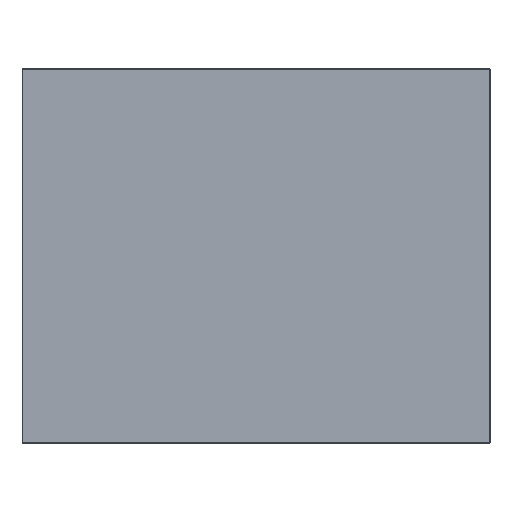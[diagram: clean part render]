
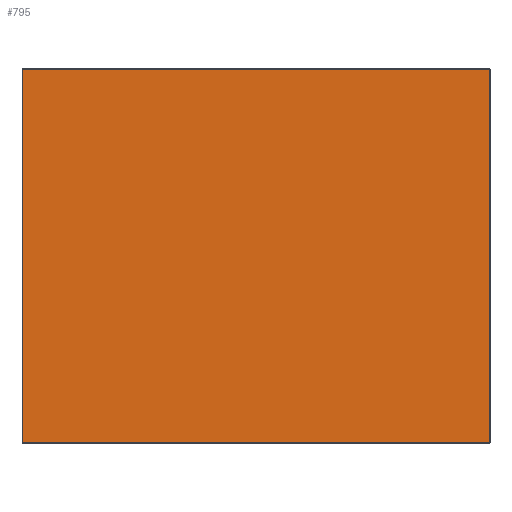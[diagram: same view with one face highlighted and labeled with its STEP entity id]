
A CAD part, top view. The second image highlights one B-rep face of the part: STEP entity #795.
In plain terms, the highlighted planar face has unit normal (0, 0, 1).
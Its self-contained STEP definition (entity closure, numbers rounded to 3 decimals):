
#52 = VERTEX_POINT ( 'NONE', #383 ) ;
#72 = VERTEX_POINT ( 'NONE', #1395 ) ;
#84 = VECTOR ( 'NONE', #1172, 1000. ) ;
#119 = LINE ( 'NONE', #300, #1384 ) ;
#164 = CARTESIAN_POINT ( 'NONE',  ( -499.5, 0., 4. ) ) ;
#190 = DIRECTION ( 'NONE',  ( 1., 0., 0. ) ) ;
#262 = AXIS2_PLACEMENT_3D ( 'NONE', #1108, #1227, #994 ) ;
#300 = CARTESIAN_POINT ( 'NONE',  ( 0., -399.5, 4. ) ) ;
#326 = LINE ( 'NONE', #521, #1176 ) ;
#383 = CARTESIAN_POINT ( 'NONE',  ( 499.5, 399.5, 4. ) ) ;
#444 = DIRECTION ( 'NONE',  ( -1., 0., 0. ) ) ;
#488 = CARTESIAN_POINT ( 'NONE',  ( 499.5, 0., 4. ) ) ;
#489 = VECTOR ( 'NONE', #946, 1000. ) ;
#521 = CARTESIAN_POINT ( 'NONE',  ( 0., 399.5, 4. ) ) ;
#538 = CARTESIAN_POINT ( 'NONE',  ( -499.5, -399.5, 4. ) ) ;
#656 = CARTESIAN_POINT ( 'NONE',  ( -499.5, 399.5, 4. ) ) ;
#734 = EDGE_CURVE ( 'NONE', #1130, #1136, #1128, .T. ) ;
#795 = ADVANCED_FACE ( 'NONE', ( #1110 ), #855, .F. ) ;
#850 = EDGE_CURVE ( 'NONE', #52, #1130, #326, .T. ) ;
#855 = PLANE ( 'NONE',  #262 ) ;
#894 = LINE ( 'NONE', #488, #84 ) ;
#946 = DIRECTION ( 'NONE',  ( 0., -1., 0. ) ) ;
#947 = ORIENTED_EDGE ( 'NONE', *, *, #734, .T. ) ;
#969 = EDGE_LOOP ( 'NONE', ( #1427, #1340, #947, #1188 ) ) ;
#994 = DIRECTION ( 'NONE',  ( -1., 0., 0. ) ) ;
#1108 = CARTESIAN_POINT ( 'NONE',  ( 0., 0., 4. ) ) ;
#1110 = FACE_OUTER_BOUND ( 'NONE', #969, .T. ) ;
#1128 = LINE ( 'NONE', #164, #489 ) ;
#1130 = VERTEX_POINT ( 'NONE', #656 ) ;
#1136 = VERTEX_POINT ( 'NONE', #538 ) ;
#1172 = DIRECTION ( 'NONE',  ( 0., 1., 0. ) ) ;
#1176 = VECTOR ( 'NONE', #444, 1000. ) ;
#1188 = ORIENTED_EDGE ( 'NONE', *, *, #1428, .T. ) ;
#1216 = EDGE_CURVE ( 'NONE', #72, #52, #894, .T. ) ;
#1227 = DIRECTION ( 'NONE',  ( 0., 0., -1. ) ) ;
#1340 = ORIENTED_EDGE ( 'NONE', *, *, #850, .T. ) ;
#1384 = VECTOR ( 'NONE', #190, 1000. ) ;
#1395 = CARTESIAN_POINT ( 'NONE',  ( 499.5, -399.5, 4. ) ) ;
#1427 = ORIENTED_EDGE ( 'NONE', *, *, #1216, .T. ) ;
#1428 = EDGE_CURVE ( 'NONE', #1136, #72, #119, .T. ) ;
